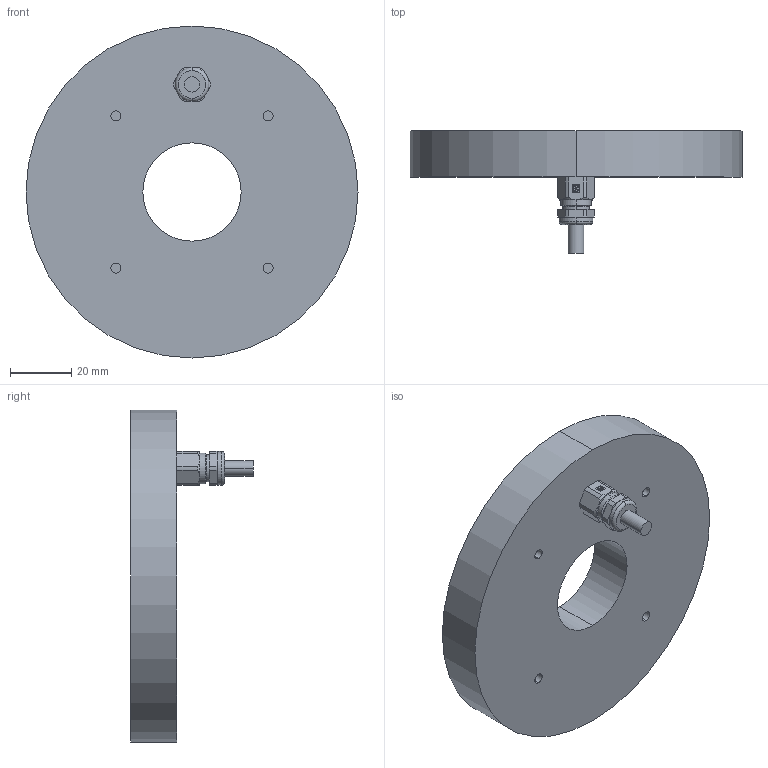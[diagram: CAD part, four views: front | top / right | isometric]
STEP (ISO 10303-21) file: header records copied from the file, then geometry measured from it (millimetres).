
FILE_DESCRIPTION (( 'STEP AP214' ), '1' );
FILE_NAME ('L1032.STEP', '2021-03-15T13:48:12', ( '' ), ( '' ), 'SwSTEP 2.0', 'SolidWorks 2021', '' );
FILE_SCHEMA (( 'AUTOMOTIVE_DESIGN' ));
Length unit declared in the file: millimetre
Products named in the file (4): Kabel ø5; L1G001032-einfach; SKINDICHT_MINI_M_8x1; L1032
Assembly tree (3 placements, depth 2):
  L1032
    L1G001032-einfach
    SKINDICHT_MINI_M_8x1
    Kabel ø5
Bounding box: 108 x 39.83 x 108 mm (x, y, z)
Volume: 102044.1 mm3; surface area: 26615.5 mm2
Topology: 3 solids, 4 shells, 136 faces, 321 edges, 204 vertices
Faces by surface type: cylinder 65, plane 45, cone 18, torus 8
Entity records: 4290 total; most frequent: CARTESIAN_POINT 775, DIRECTION 741, ORIENTED_EDGE 642, EDGE_CURVE 321, AXIS2_PLACEMENT_3D 302, VERTEX_POINT 204, CIRCLE 160, EDGE_LOOP 153
